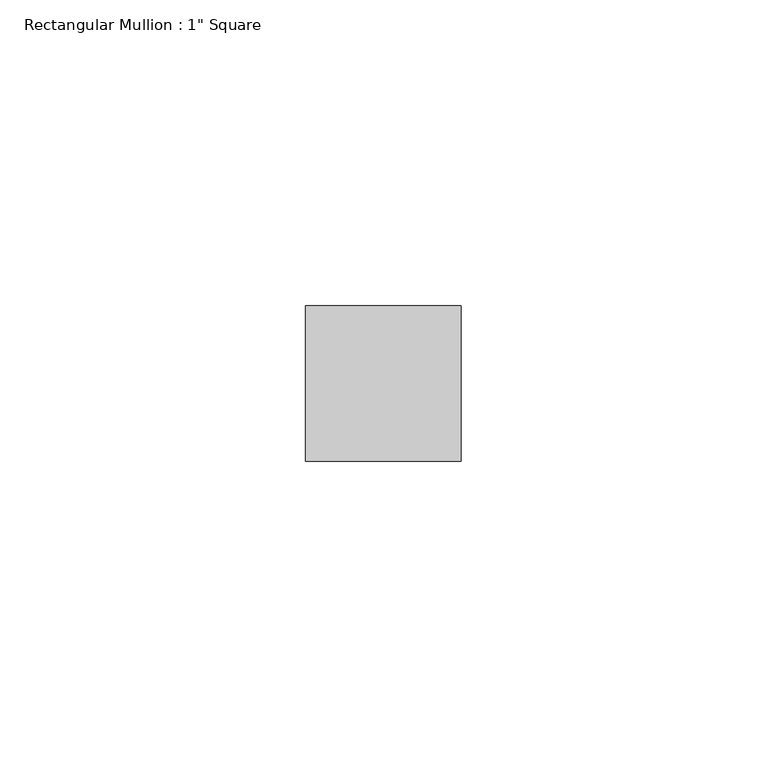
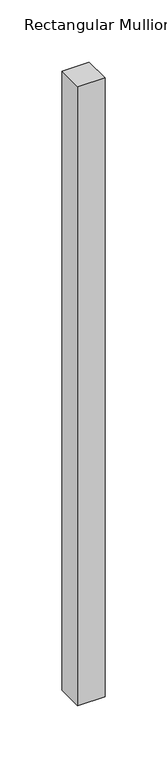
"""IFC4 building model written with IfcOpenShell, lengths in millimetres: member geometry."""

import ifcopenshell
import ifcopenshell.guid

model = None  # the IFC model being written
_history = None  # IfcOwnerHistory: only IFC2X3 demands one
_inside = {}  # id of a spatial element -> (the spatial element, [elements in it])
_under = {}  # id of a project, library or spatial element -> (it, [spatial elements below it])
_declared = {}  # id of a project -> (the project, [libraries it declares])
_typed = {}  # id of a type object -> (the type object, [elements of that type])
_made_of = {}  # id of a material, layer set ... -> (it, [elements and type objects made of it])


def new_model(schema):
    """Start an empty IFC model of exactly this schema.

    Asked for "IFC4X3", IfcOpenShell would pick the latest addendum, in which some entities
    have other attributes; the version numbers below select the first issue.
    IFC2X3 requires an IfcOwnerHistory on every rooted entity: one is made here for all.
    """
    global model, _history
    if schema == "IFC4X3":
        model = ifcopenshell.file(schema_version=(4, 3, 0, 0))
    else:
        model = ifcopenshell.file(schema=schema)
    _inside.clear()
    _under.clear()
    _declared.clear()
    _typed.clear()
    _made_of.clear()
    _history = None
    if model.schema == "IFC2X3":
        org = make("IfcOrganization", Name="unknown")
        user = make(
            "IfcPersonAndOrganization",
            ThePerson=make("IfcPerson", FamilyName="unknown"),
            TheOrganization=org,
        )
        app = make(
            "IfcApplication",
            ApplicationDeveloper=org,
            Version="unknown",
            ApplicationFullName="unknown",
            ApplicationIdentifier="unknown",
        )
        _history = make(
            "IfcOwnerHistory",
            OwningUser=user,
            OwningApplication=app,
            ChangeAction="ADDED",
            CreationDate=0,
        )
    return model


def make(cls, **values):
    """One entity of the class cls with the attributes given. An attribute that is None is left unset."""
    return model.create_entity(
        cls, **{name: value for name, value in values.items() if value is not None}
    )


def rooted(cls, **values):
    """An entity with a GlobalId (a new one), such as an element, a storey or a relation."""
    return make(cls, GlobalId=ifcopenshell.guid.new(), OwnerHistory=_history, **values)


def si_unit(unit_type, name, prefix=None):
    """IfcSIUnit, for example si_unit("LENGTHUNIT", "METRE", prefix="MILLI")."""
    return make("IfcSIUnit", UnitType=unit_type, Prefix=prefix, Name=name)


def assignment(units):
    """IfcUnitAssignment: the units of a project."""
    return None if units is None else make("IfcUnitAssignment", Units=units)


def point(xyz):
    """IfcCartesianPoint."""
    return None if xyz is None else make("IfcCartesianPoint", Coordinates=xyz)


def direction(xyz):
    """IfcDirection."""
    return None if xyz is None else make("IfcDirection", DirectionRatios=xyz)


def frame(location, z_axis=None, x_axis=None):
    """IfcAxis2Placement3D, a coordinate frame: its origin and axes. An axis left out is left unset."""
    return make(
        "IfcAxis2Placement3D",
        Location=point(location),
        Axis=direction(z_axis),
        RefDirection=direction(x_axis),
    )


def origin():
    """The frame at (0, 0, 0) with its axes left unset."""
    return frame((0.0, 0.0, 0.0))


def place(relative_to, where):
    """IfcLocalPlacement: puts the frame where relative to a parent placement (None: the world)."""
    return make(
        "IfcLocalPlacement", PlacementRelTo=relative_to, RelativePlacement=where
    )


def context(
    kind, dimensions, precision=None, world=None, true_north=None, identifier=None
):
    """IfcGeometricRepresentationContext, for example the 3D "Model" context."""
    return make(
        "IfcGeometricRepresentationContext",
        ContextIdentifier=identifier,
        ContextType=kind,
        CoordinateSpaceDimension=dimensions,
        Precision=precision,
        WorldCoordinateSystem=world,
        TrueNorth=true_north,
    )


def project(units=None, contexts=None):
    """IfcProject with its units and contexts."""
    return rooted(
        "IfcProject",
        Name="project",
        RepresentationContexts=contexts,
        UnitsInContext=assignment(units),
    )


def spatial(cls, under=None, at=None, **own):
    """A site, building, storey or space (cls), placed at a placement, below another one or the project."""
    s = rooted(cls, ObjectPlacement=at, **own)
    if under is not None:
        _under.setdefault(under.id(), (under, []))[1].append(s)
    return s


def polyline(points):
    """IfcPolyline through the points."""
    return make("IfcPolyline", Points=[point(p) for p in points])


def outline(outer, holes=None, kind="AREA"):
    """IfcArbitraryClosedProfileDef: a profile drawn as a closed curve; with holes, ...WithVoids."""
    if holes is None:
        return make("IfcArbitraryClosedProfileDef", ProfileType=kind, OuterCurve=outer)
    return make(
        "IfcArbitraryProfileDefWithVoids",
        ProfileType=kind,
        OuterCurve=outer,
        InnerCurves=holes,
    )


def extrude(swept, where, along, depth):
    """IfcExtrudedAreaSolid: the profile swept, set in the frame where, extruded along a direction by depth."""
    return make(
        "IfcExtrudedAreaSolid",
        SweptArea=swept,
        Position=where,
        ExtrudedDirection=direction(along),
        Depth=depth,
    )


def shape(context_of_items, identifier, shape_type, items):
    """IfcShapeRepresentation: the items that make up one representation, for example the "Body"."""
    return make(
        "IfcShapeRepresentation",
        ContextOfItems=context_of_items,
        RepresentationIdentifier=identifier,
        RepresentationType=shape_type,
        Items=items,
    )


def source(mapping_origin, context_of_items, identifier, shape_type, items):
    """IfcRepresentationMap: a shape defined once, which mapped items show again and again."""
    return make(
        "IfcRepresentationMap",
        MappingOrigin=mapping_origin,
        MappedRepresentation=shape(context_of_items, identifier, shape_type, items),
    )


def transform(
    local_origin,
    x_axis=None,
    y_axis=None,
    z_axis=None,
    scale=None,
    scale2=None,
    scale3=None,
    uniform=True,
):
    """IfcCartesianTransformationOperator3D, or its non-uniform kind. x_axis, y_axis, z_axis: its Axis1, 2, 3."""
    if uniform:
        return make(
            "IfcCartesianTransformationOperator3D",
            Axis1=direction(x_axis),
            Axis2=direction(y_axis),
            LocalOrigin=point(local_origin),
            Scale=scale,
            Axis3=direction(z_axis),
        )
    return make(
        "IfcCartesianTransformationOperator3DnonUniform",
        Axis1=direction(x_axis),
        Axis2=direction(y_axis),
        LocalOrigin=point(local_origin),
        Scale=scale,
        Axis3=direction(z_axis),
        Scale2=scale2,
        Scale3=scale3,
    )


def mapped(mapping_source, mapping_target):
    """IfcMappedItem: shows the shape of a source again, moved by a transform."""
    return make(
        "IfcMappedItem", MappingSource=mapping_source, MappingTarget=mapping_target
    )


def made_of(thing, what):
    """Note that an element or type object is made of a material, layer set ...; save() writes the relation."""
    if what is not None:
        _made_of.setdefault(what.id(), (what, []))[1].append(thing)
    return thing


def element(
    cls,
    number,
    at=None,
    inside=None,
    cuts=None,
    type_object=None,
    material=None,
    context=None,
    identifier="Body",
    shape_type=None,
    held_by="IfcProductDefinitionShape",
    body=None,
    shapes=None,
    **own,
):
    """One element of the class cls, such as IfcWall. Its Tag is "e" and its number.

    at: its placement. inside: the storey or other place that contains it. cuts: it is an
    opening in that element (IfcRelVoidsElement). A single representation is given by context,
    identifier, shape_type and body (its items); several are given by shapes. held_by: the class
    of the entity that holds the representations. save() writes the other relations.
    """
    e = rooted(cls, Tag="e%d" % number, ObjectPlacement=at, **own)
    if body is not None:
        shapes = [shape(context, identifier, shape_type, body)]
    if shapes is not None:
        e.Representation = make(held_by, Representations=shapes)
    if inside is not None:
        _inside.setdefault(inside.id(), (inside, []))[1].append(e)
    if cuts is not None:
        rooted(
            "IfcRelVoidsElement", RelatingBuildingElement=cuts, RelatedOpeningElement=e
        )
    if type_object is not None:
        _typed.setdefault(type_object.id(), (type_object, []))[1].append(e)
    return made_of(e, material)


def aggregate(whole, parts):
    """IfcRelAggregates: a whole, such as a stair, and the parts it consists of."""
    return rooted("IfcRelAggregates", RelatingObject=whole, RelatedObjects=parts)


def save(model, path):
    """Write the relations noted so far, then the file.

    IfcRelAggregates (storeys below a building ...), IfcRelContainedInSpatialStructure (elements
    in a storey), IfcRelDefinesByType, IfcRelAssociatesMaterial and IfcRelDeclares: one each for
    every whole, place, type object, material and project.
    """
    for whole, parts in _under.values():
        aggregate(whole, parts)
    for where, things in _inside.values():
        rooted(
            "IfcRelContainedInSpatialStructure",
            RelatedElements=things,
            RelatingStructure=where,
        )
    for kind, things in _typed.values():
        rooted("IfcRelDefinesByType", RelatedObjects=things, RelatingType=kind)
    for what, things in _made_of.values():
        rooted("IfcRelAssociatesMaterial", RelatedObjects=things, RelatingMaterial=what)
    for by, libraries in _declared.values():
        rooted("IfcRelDeclares", RelatingContext=by, RelatedDefinitions=libraries)
    model.write(path)


def member_3e1f1dd8(model_context):
    return source(origin(), model_context, "Body", "SweptSolid", [
        extrude(outline(polyline([(12.7, 12.7), (12.7, -12.7), (-12.7, -12.7), (-12.7, 12.7), (12.7, 12.7)])), frame((0.0, 0.0, -609.6), z_axis=(0.0, 0.0, 1.0), x_axis=(1.0, 0.0, 0.0)), (0.0, 0.0, 1.0), 609.6),
    ])


if __name__ == "__main__":
    model = new_model("IFC4")
    model_context = context("Model", 3, world=origin())
    ifc_project = project(units=[si_unit("LENGTHUNIT", "METRE", prefix="MILLI")], contexts=[model_context])
    site = spatial("IfcSite", under=ifc_project)
    building = spatial("IfcBuilding", under=site)
    placement = place(None, origin())
    member_shape = member_3e1f1dd8(model_context)
    element("IfcMember", 1, ObjectType="Rectangular Mullion : 1\" Square", at=placement, inside=building, context=model_context, shape_type="MappedRepresentation", body=[
        mapped(member_shape, transform((0.0, 0.0, 0.0), x_axis=(1.0, 0.0, 0.0), y_axis=(0.0, 1.0, 0.0), z_axis=(0.0, 0.0, 1.0))),
    ])
    save(model, "model.ifc")
